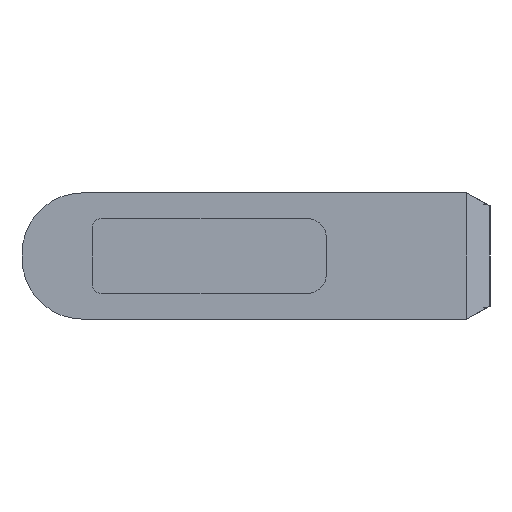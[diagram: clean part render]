
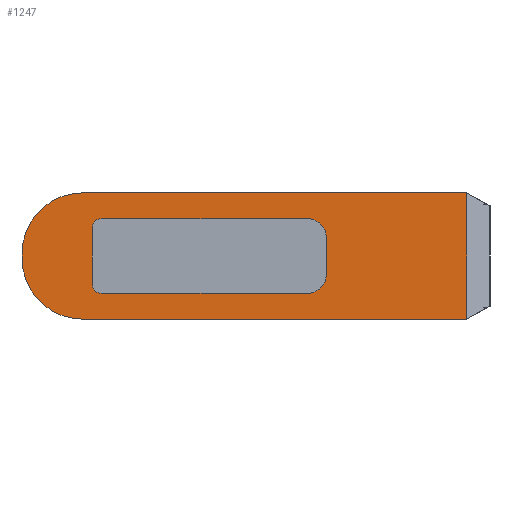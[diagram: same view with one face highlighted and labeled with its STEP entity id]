
A CAD part, left-side view. The second image highlights one B-rep face of the part: STEP entity #1247.
In plain terms, the highlighted planar face has unit normal (-1, 0, 0).
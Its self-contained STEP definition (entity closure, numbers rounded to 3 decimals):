
#15=FACE_BOUND('',#155,.T.);
#25=PLANE('',#1327);
#86=FACE_OUTER_BOUND('',#154,.T.);
#154=EDGE_LOOP('',(#911,#912,#913,#914,#915,#916));
#155=EDGE_LOOP('',(#917,#918,#919,#920));
#232=LINE('',#1795,#393);
#235=LINE('',#1800,#396);
#239=LINE('',#1814,#400);
#242=LINE('',#1820,#403);
#243=LINE('',#1822,#404);
#244=LINE('',#1824,#405);
#245=LINE('',#1827,#406);
#246=LINE('',#1828,#407);
#393=VECTOR('',#1446,10.);
#396=VECTOR('',#1451,10.);
#400=VECTOR('',#1465,10.);
#403=VECTOR('',#1470,10.);
#404=VECTOR('',#1471,10.);
#405=VECTOR('',#1472,10.);
#406=VECTOR('',#1475,10.);
#407=VECTOR('',#1476,10.);
#544=CIRCLE('',#1324,13.);
#546=CIRCLE('',#1328,13.);
#578=VERTEX_POINT('',#1792);
#579=VERTEX_POINT('',#1794);
#580=VERTEX_POINT('',#1798);
#581=VERTEX_POINT('',#1804);
#582=VERTEX_POINT('',#1805);
#585=VERTEX_POINT('',#1813);
#587=VERTEX_POINT('',#1819);
#588=VERTEX_POINT('',#1821);
#589=VERTEX_POINT('',#1823);
#590=VERTEX_POINT('',#1826);
#702=EDGE_CURVE('',#579,#578,#232,.T.);
#705=EDGE_CURVE('',#578,#580,#235,.T.);
#707=EDGE_CURVE('',#581,#582,#544,.T.);
#711=EDGE_CURVE('',#582,#585,#239,.T.);
#714=EDGE_CURVE('',#587,#581,#242,.T.);
#715=EDGE_CURVE('',#588,#587,#243,.T.);
#716=EDGE_CURVE('',#589,#588,#244,.T.);
#717=EDGE_CURVE('',#585,#589,#546,.T.);
#718=EDGE_CURVE('',#590,#579,#245,.T.);
#719=EDGE_CURVE('',#580,#590,#246,.T.);
#911=ORIENTED_EDGE('',*,*,#707,.F.);
#912=ORIENTED_EDGE('',*,*,#714,.F.);
#913=ORIENTED_EDGE('',*,*,#715,.F.);
#914=ORIENTED_EDGE('',*,*,#716,.F.);
#915=ORIENTED_EDGE('',*,*,#717,.F.);
#916=ORIENTED_EDGE('',*,*,#711,.F.);
#917=ORIENTED_EDGE('',*,*,#718,.T.);
#918=ORIENTED_EDGE('',*,*,#702,.T.);
#919=ORIENTED_EDGE('',*,*,#705,.T.);
#920=ORIENTED_EDGE('',*,*,#719,.T.);
#1247=ADVANCED_FACE('',(#86,#15),#25,.T.);
#1324=AXIS2_PLACEMENT_3D('',#1806,#1457,#1458);
#1327=AXIS2_PLACEMENT_3D('',#1818,#1468,#1469);
#1328=AXIS2_PLACEMENT_3D('',#1825,#1473,#1474);
#1446=DIRECTION('',(0.,0.,1.));
#1451=DIRECTION('',(0.,-1.,0.));
#1457=DIRECTION('center_axis',(1.,0.,0.));
#1458=DIRECTION('ref_axis',(0.,0.707,-0.707));
#1465=DIRECTION('',(0.,0.,1.));
#1468=DIRECTION('center_axis',(-1.,0.,0.));
#1469=DIRECTION('ref_axis',(0.,-1.,0.));
#1470=DIRECTION('',(0.,1.,0.));
#1471=DIRECTION('',(0.,0.,-1.));
#1472=DIRECTION('',(0.,-1.,0.));
#1473=DIRECTION('center_axis',(1.,0.,0.));
#1474=DIRECTION('ref_axis',(0.,0.707,0.707));
#1475=DIRECTION('',(0.,1.,0.));
#1476=DIRECTION('',(0.,0.,-1.));
#1792=CARTESIAN_POINT('',(-110.,80.,15.975));
#1794=CARTESIAN_POINT('',(-110.,80.,10.975));
#1795=CARTESIAN_POINT('',(-110.,80.,15.975));
#1798=CARTESIAN_POINT('',(-110.,35.,15.975));
#1800=CARTESIAN_POINT('',(-110.,67.5,15.975));
#1804=CARTESIAN_POINT('',(-110.,87.,0.));
#1805=CARTESIAN_POINT('',(-110.,100.,13.));
#1806=CARTESIAN_POINT('Origin',(-110.,87.,13.));
#1813=CARTESIAN_POINT('',(-110.,100.,14.));
#1814=CARTESIAN_POINT('',(-110.,100.,0.));
#1818=CARTESIAN_POINT('Origin',(-110.,100.,0.));
#1819=CARTESIAN_POINT('',(-110.,5.,0.));
#1820=CARTESIAN_POINT('',(-110.,0.,0.));
#1821=CARTESIAN_POINT('',(-110.,5.,27.));
#1822=CARTESIAN_POINT('',(-110.,5.,0.));
#1823=CARTESIAN_POINT('',(-110.,87.,27.));
#1824=CARTESIAN_POINT('',(-110.,0.,27.));
#1825=CARTESIAN_POINT('Origin',(-110.,87.,14.));
#1826=CARTESIAN_POINT('',(-110.,35.,10.975));
#1827=CARTESIAN_POINT('',(-110.,67.5,10.975));
#1828=CARTESIAN_POINT('',(-110.,35.,6.75));
